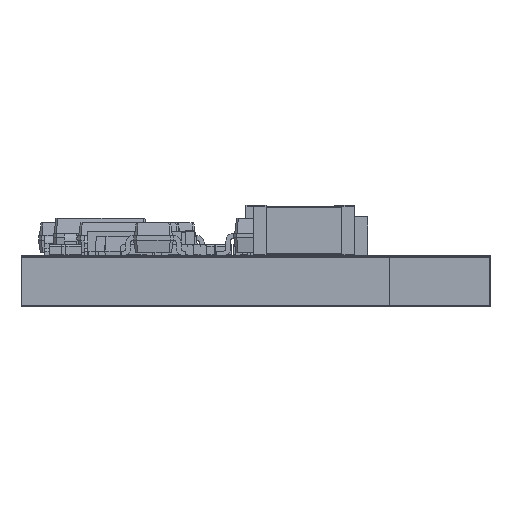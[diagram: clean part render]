
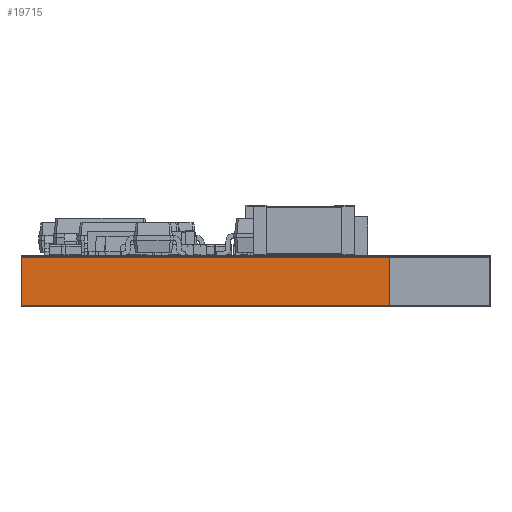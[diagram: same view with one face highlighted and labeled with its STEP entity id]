
A CAD part, left-side view. The second image highlights one B-rep face of the part: STEP entity #19715.
In plain terms, the highlighted face is a extrusion surface.
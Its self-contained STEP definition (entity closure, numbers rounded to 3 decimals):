
#6240 = VERTEX_POINT('',#6241);
#6241 = CARTESIAN_POINT('',(-3.81,12.243,-0.03));
#6247 = EDGE_CURVE('',#6240,#6248,#6250,.T.);
#6248 = VERTEX_POINT('',#6249);
#6249 = CARTESIAN_POINT('',(-3.81,0.61,-0.03));
#6250 = LINE('',#6251,#6252);
#6251 = CARTESIAN_POINT('',(-3.81,12.243,-0.03));
#6252 = VECTOR('',#6253,1.);
#6253 = DIRECTION('',(0.,-1.,0.));
#17491 = VERTEX_POINT('',#17492);
#17492 = CARTESIAN_POINT('',(-3.81,12.243,-1.554));
#17810 = VERTEX_POINT('',#17811);
#17811 = CARTESIAN_POINT('',(-3.81,0.61,-1.554));
#17817 = EDGE_CURVE('',#17810,#17491,#17818,.T.);
#17818 = LINE('',#17819,#17820);
#17819 = CARTESIAN_POINT('',(-3.81,0.61,-1.554));
#17820 = VECTOR('',#17821,1.);
#17821 = DIRECTION('',(0.,1.,0.));
#19701 = EDGE_CURVE('',#6248,#17810,#19702,.T.);
#19702 = LINE('',#19703,#19704);
#19703 = CARTESIAN_POINT('',(-3.81,0.61,-0.03));
#19704 = VECTOR('',#19705,1.);
#19705 = DIRECTION('',(0.,0.,-1.));
#19715 = ADVANCED_FACE('',(#19716),#19727,.F.);
#19716 = FACE_BOUND('',#19717,.F.);
#19717 = EDGE_LOOP('',(#19718,#19719,#19725,#19726));
#19718 = ORIENTED_EDGE('',*,*,#6247,.F.);
#19719 = ORIENTED_EDGE('',*,*,#19720,.T.);
#19720 = EDGE_CURVE('',#6240,#17491,#19721,.T.);
#19721 = LINE('',#19722,#19723);
#19722 = CARTESIAN_POINT('',(-3.81,12.243,-0.03));
#19723 = VECTOR('',#19724,1.);
#19724 = DIRECTION('',(0.,0.,-1.));
#19725 = ORIENTED_EDGE('',*,*,#17817,.F.);
#19726 = ORIENTED_EDGE('',*,*,#19701,.F.);
#19727 = SURFACE_OF_LINEAR_EXTRUSION('',#19728,#19732);
#19728 = LINE('',#19729,#19730);
#19729 = CARTESIAN_POINT('',(-3.81,0.61,-1.554));
#19730 = VECTOR('',#19731,1.);
#19731 = DIRECTION('',(0.,0.,1.));
#19732 = VECTOR('',#19733,1.);
#19733 = DIRECTION('',(0.,1.,0.));
